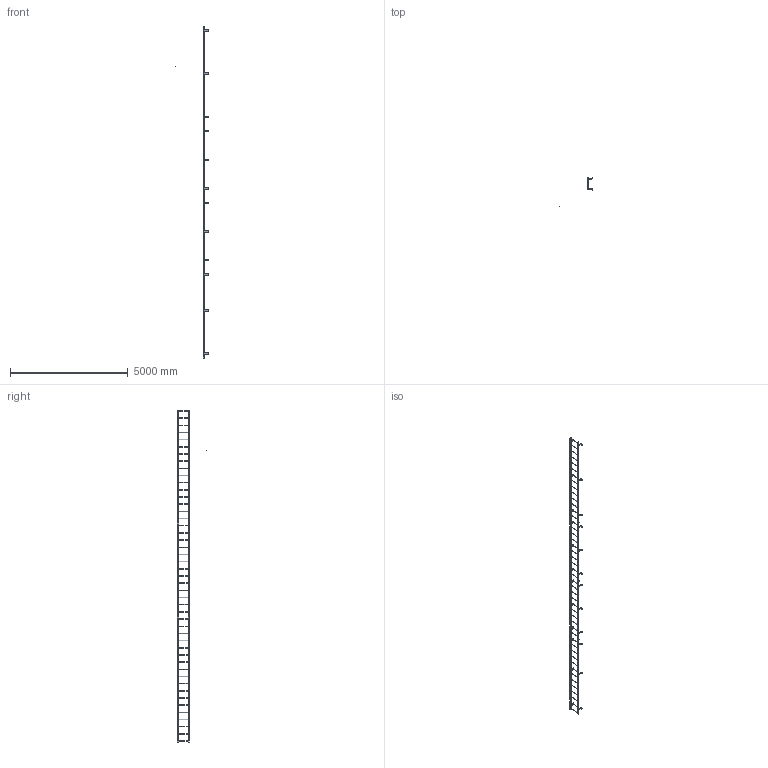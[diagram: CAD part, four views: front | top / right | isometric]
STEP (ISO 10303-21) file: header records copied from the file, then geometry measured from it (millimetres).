
FILE_DESCRIPTION(/* description */ (''),/* implementation_level */ '2;1');
FILE_NAME(/* name */ 'P:\MIKEL & KAREN\3570363 F47S SIMPLIFIED PART.stp',/* time_stamp */ '2018-07-02T16:06:45-04:00',/* author */ ('stephanie'),/* organization */ (''),/* preprocessor_version */ 'ST-DEVELOPER v16.1',/* originating_system */ 'Autodesk Inventor 2016',/* authorisation */ '');
FILE_SCHEMA (('AUTOMOTIVE_DESIGN { 1 0 10303 214 3 1 1 }'));
Length unit declared in the file: centimetre
Products named in the file (1): 3570363 F47S SIMPLIFIED PART
Bounding box: 1377 x 1262.07 x 14097 mm (x, y, z)
Volume: 24524590.3 mm3; surface area: 7366713.1 mm2
Topology: 50 solids, 50 shells, 710 faces, 1906 edges, 1272 vertices
Faces by surface type: plane 418, cylinder 292
Full cylindrical faces by diameter (mm): 0.254 x1, 14.287 x30, 19.05 x47, 22.225 x94
Entity records: 21625 total; most frequent: DIRECTION 3664, CARTESIAN_POINT 3469, ORIENTED_EDGE 3220, EDGE_CURVE 1610, AXIS2_PLACEMENT_3D 1343, VERTEX_POINT 1148, EDGE_LOOP 1130, LINE 978
